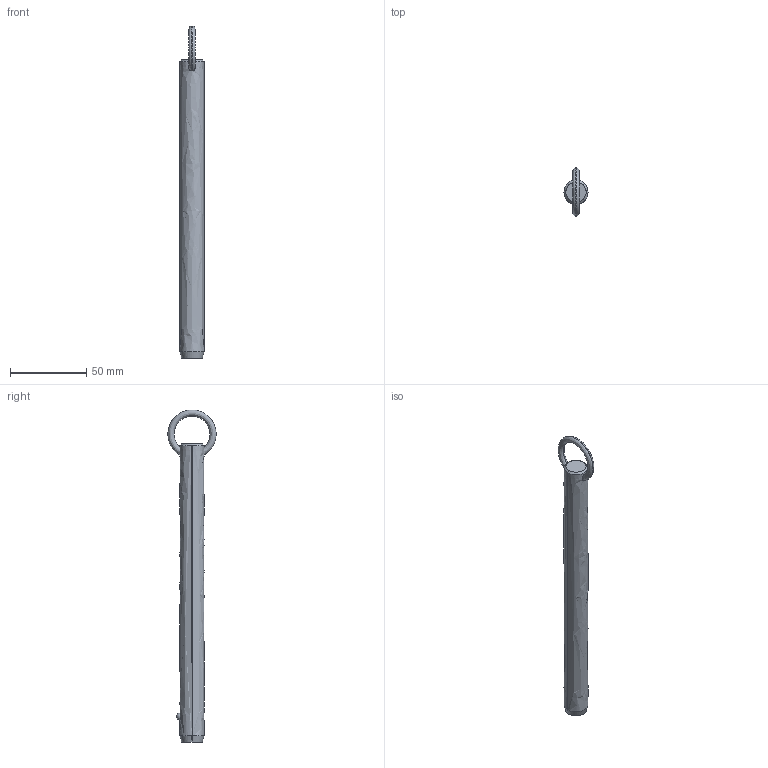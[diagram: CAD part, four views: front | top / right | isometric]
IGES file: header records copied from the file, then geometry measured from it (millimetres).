
Start section: SolidWorks IGES file using analytic representation for surfaces
Global section: file name: C:\Users\liam_\OneDrive\Documents\WORK\Work for WixRoyd\Job Files\J-00019 - Matt Davis CAD Checking\04. CAD Drawings\automotion20190605\P1250.2_v2\P1250.2_v2_20190729_IGES\P1250.062-660.igs; native system: SolidWorks 2017; preprocessor: SolidWorks 2017; author: liam_; date: 190729.234301; units: millimetre
Bounding box: 15.8 x 31.68 x 218.29 mm (x, y, z)
Surface area: 10907.7 mm2 (no closed solid volume)
Topology: 0 solids, 0 shells, 12 faces, 292 edges, 290 vertices
Faces by surface type: revolution 8, bspline 4
